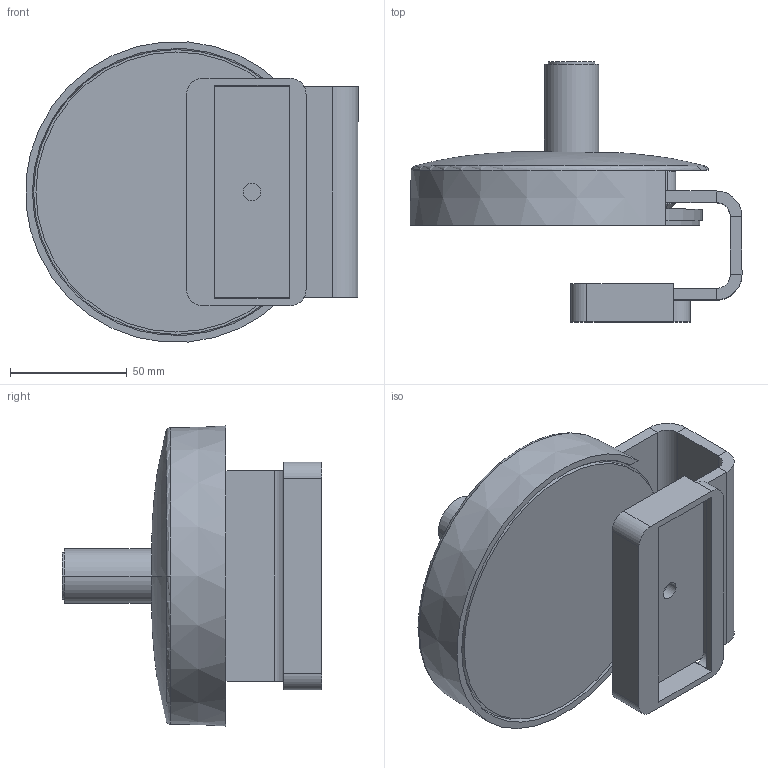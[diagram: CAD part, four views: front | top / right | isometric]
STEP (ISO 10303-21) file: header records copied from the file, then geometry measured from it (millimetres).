
FILE_DESCRIPTION (( 'STEP AP214' ), '1' );
FILE_NAME ('P077-Top Mount Clamp.STEP', '2022-10-03T10:02:27', ( '' ), ( '' ), 'SwSTEP 2.0', 'SolidWorks 2022', '' );
FILE_SCHEMA (( 'AUTOMOTIVE_DESIGN' ));
Length unit declared in the file: millimetre
Products named in the file (1): P077-Top Mount Clamp
Bounding box: 142.26 x 111.33 x 128.55 mm (x, y, z)
Volume: 272363.3 mm3; surface area: 158783.7 mm2
Topology: 12 solids, 12 shells, 283 faces, 707 edges, 456 vertices
Faces by surface type: plane 139, cylinder 87, cone 38, bspline 17, torus 2
Entity records: 13979 total; most frequent: CARTESIAN_POINT 3849, ORIENTED_EDGE 1414, DIRECTION 1412, EDGE_CURVE 707, AXIS2_PLACEMENT_3D 506, VERTEX_POINT 456, VECTOR 400, LINE 400
